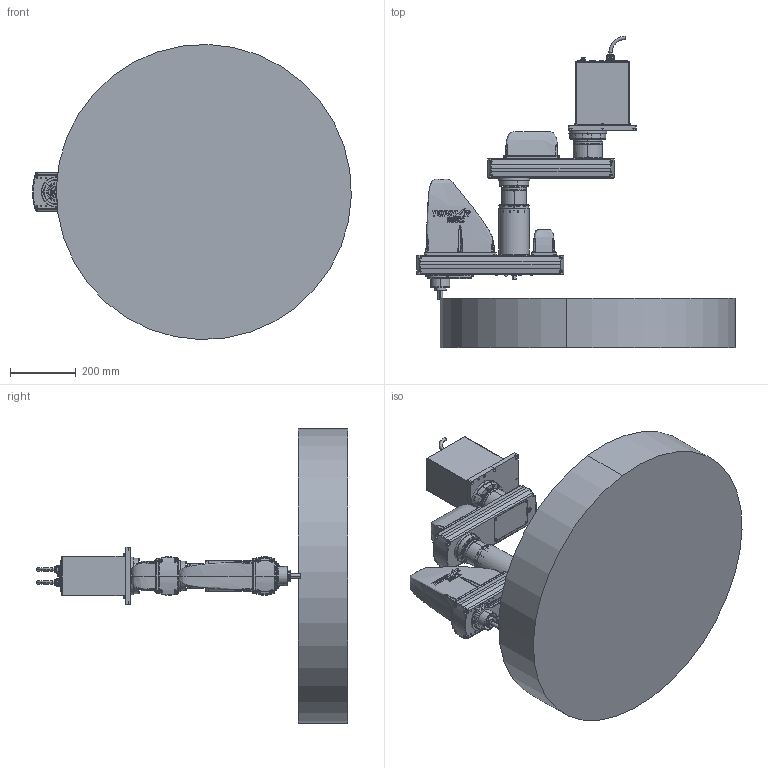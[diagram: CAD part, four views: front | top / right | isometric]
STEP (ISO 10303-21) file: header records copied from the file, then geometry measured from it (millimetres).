
FILE_DESCRIPTION (( 'STEP AP203' ), '1' );
FILE_NAME ('TRD002-450-150-S_机器人(STEP).STEP', '2024-12-10T03:15:58', ( '' ), ( '' ), 'SwSTEP 2.0', 'SolidWorks 2023', '' );
FILE_SCHEMA (( 'CONFIG_CONTROL_DESIGN' ));
Length unit declared in the file: millimetre
Products named in the file (6): TRD002-450-150-S_1; TRD002-450-150-S_3.; TRD002-450-150-S_Space; TRD002-450-150-S_4; TRD002-450-150-S_2; TRD002-450-150-S_机器人(STEP)
Assembly tree (5 placements, depth 2):
  TRD002-450-150-S_机器人(STEP)
    TRD002-450-150-S_1
    TRD002-450-150-S_2
    TRD002-450-150-S_3.
    TRD002-450-150-S_4
    TRD002-450-150-S_Space
Bounding box: 971.82 x 949.4 x 899.64 mm (x, y, z)
Volume: 107738991.3 mm3; surface area: 2591043.4 mm2
Topology: 4 solids, 178 shells, 5323 faces, 12380 edges, 7576 vertices
Faces by surface type: plane 2470, cylinder 1508, cone 535, bspline 409, torus 267, sphere 134
Entity records: 185597 total; most frequent: CARTESIAN_POINT 65820, DIRECTION 24937, ORIENTED_EDGE 24394, EDGE_CURVE 12206, AXIS2_PLACEMENT_3D 9597, VERTEX_POINT 7576, EDGE_LOOP 5895, LINE 5743
